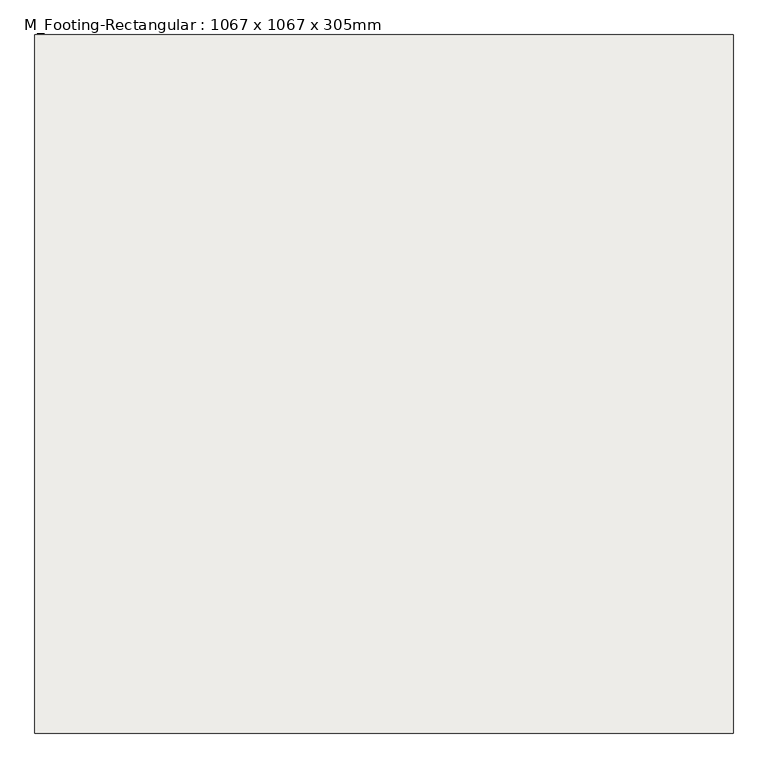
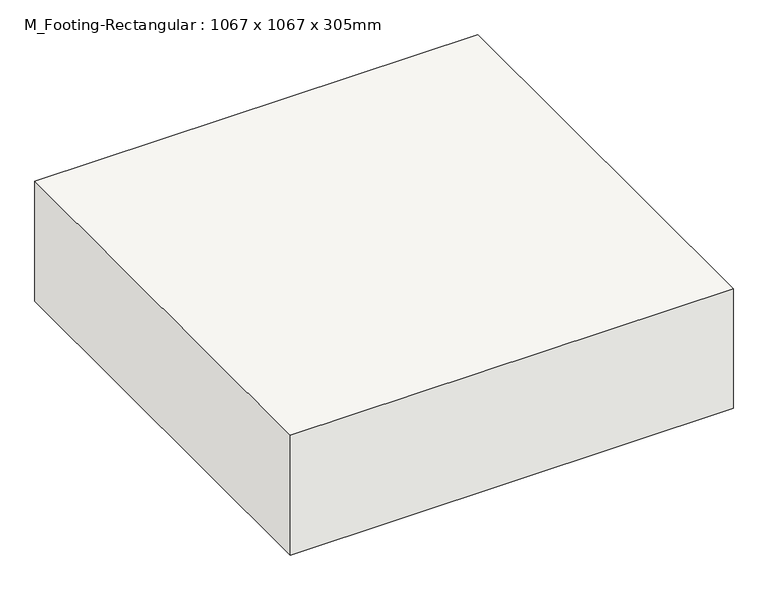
"""IFC4 building model written with IfcOpenShell, lengths in millimetres: slab geometry, M_Footing-Rectangular : 1067 x 1067 x 305mm."""

from ifc_helpers import new_model, si_unit, frame, origin, place, context, project, spatial, polyline, outline, extrude, source, transform, mapped, element, save


def m_footing_rectangular_1067_x_1067_x_305mm_e91fa160(model_context):
    return source(origin(), model_context, "Body", "SweptSolid", [
        extrude(outline(polyline([(533.5, 533.5), (533.5, -533.5), (-533.5, -533.5), (-533.5, 533.5), (533.5, 533.5)])), frame((0.0, 0.0, -305.0), z_axis=(0.0, 0.0, 1.0), x_axis=(1.0, 0.0, 0.0)), (0.0, 0.0, 1.0), 305.0),
    ])


if __name__ == "__main__":
    model = new_model("IFC4")
    model_context = context("Model", 3, world=origin())
    ifc_project = project(units=[si_unit("LENGTHUNIT", "METRE", prefix="MILLI")], contexts=[model_context])
    site = spatial("IfcSite", under=ifc_project)
    building = spatial("IfcBuilding", under=site)
    placement = place(None, origin())
    m_footing_rectangular_1067_x_1067_x_305mm_shape = m_footing_rectangular_1067_x_1067_x_305mm_e91fa160(model_context)
    element("IfcSlab", 1, ObjectType="M_Footing-Rectangular : 1067 x 1067 x 305mm", at=placement, inside=building, context=model_context, shape_type="MappedRepresentation", body=[
        mapped(m_footing_rectangular_1067_x_1067_x_305mm_shape, transform((0.0, 0.0, 0.0), x_axis=(1.0, 0.0, 0.0), y_axis=(0.0, 1.0, 0.0), z_axis=(0.0, 0.0, 1.0))),
    ])
    save(model, "model.ifc")
